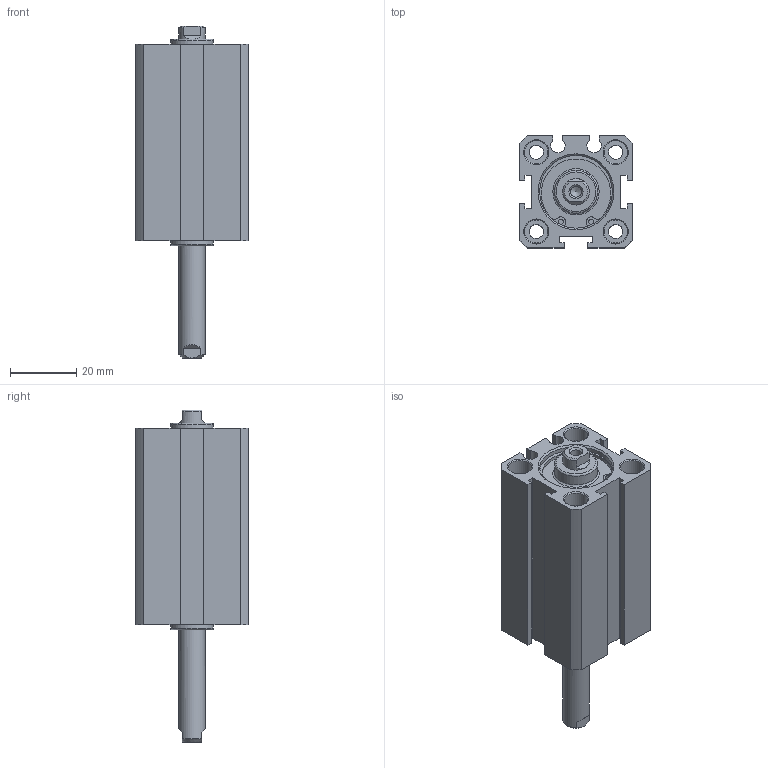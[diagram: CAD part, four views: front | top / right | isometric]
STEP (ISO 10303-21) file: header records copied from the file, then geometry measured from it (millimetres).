
FILE_DESCRIPTION((''),'2;1');
FILE_NAME('I:\3D電子目錄\氣缸\JDD\JDD-S\JDD20-S\JDD20x30-S.stp','2007-02-08T14:19:00',('662F206'),(''),'Autodesk Inventor 10','Autodesk Inventor 10','');
FILE_SCHEMA(('AUTOMOTIVE_DESIGN { 1 0 10303 214 1 1 1 1 }'));
Length unit declared in the file: millimetre
Products named in the file (3): JDD20-S; R 形環 23
Assembly tree (3 placements, depth 2):
  JDD20-S
    JDD20-S
    R 形環 23  x2
Bounding box: 34 x 34 x 100.5 mm (x, y, z)
Volume: 56690.5 mm3; surface area: 19744.3 mm2
Topology: 3 solids, 3 shells, 149 faces, 346 edges, 225 vertices
Faces by surface type: plane 70, cylinder 47, cone 18, bspline 12, torus 2
Full cylindrical faces by diameter (mm): 1.5 x6, 4.3 x4, 7 x8, 8 x1, 13 x2, 22 x4, 23.2 x2
Entity records: 3819 total; most frequent: CARTESIAN_POINT 813, DIRECTION 626, ORIENTED_EDGE 514, EDGE_CURVE 257, AXIS2_PLACEMENT_3D 246, EDGE_LOOP 220, VERTEX_POINT 195, FACE_OUTER_BOUND 137
